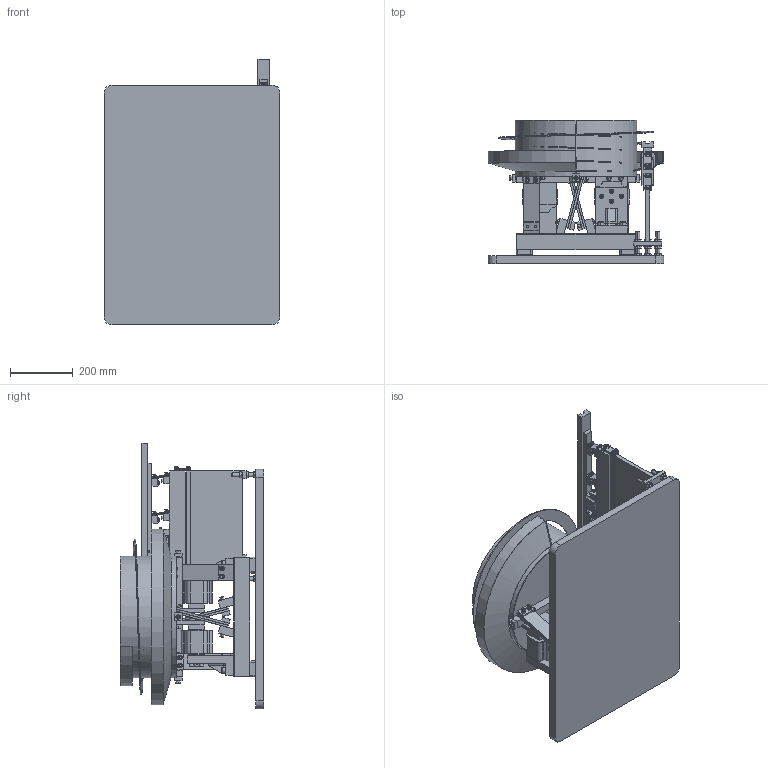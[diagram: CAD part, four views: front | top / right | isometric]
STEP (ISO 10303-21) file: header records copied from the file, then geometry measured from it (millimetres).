
FILE_DESCRIPTION (( 'STEP AP203' ), '1' );
FILE_NAME ('CW15B-18T-P.STEP', '2014-01-10T11:39:44', ( '' ), ( '' ), 'SwSTEP 2.0', 'SolidWorks 2013', '' );
FILE_SCHEMA (( 'CONFIG_CONTROL_DESIGN' ));
Length unit declared in the file: inch
Products named in the file (27): S-II-RISER GUSSET_6.5"; S-II-SPRING-SPACER; S-II-14-DRIVE BAR; MFS-S-II-14 INLINE_6.5; S-II-ADJUSTING-LEVELER; S-II-I-LAMINATION; S-II-FRONT-FOOT; S-II-SPRING-BLOCK; hex washer screw_ai_IN-HWMS 0.25-20x1.25x1-N; socket head cap screw_ai_HX-SHCS 0.19-24x1.625x1.25-N; 15-CW-BASE-DRIVE; socket head cap screw_ai_HX-SHCS 0.19-24x0.625x0.625-N; S-II-REAR-FOOT; S-II-COIL; S-II-I-LAM-MTG-BLOCK; socket head cap screw_ai_HX-SHCS 0.19-24x1.125x1.125-N; BOWL_15"; MFS PLATE_15"; CW15B-18T-P; S-II-14-SUB-BASE; S-II-SPRING-CLAMP; S-II-THICK-SPRING; S-II-14-MASS BAR; hex jam nut_ai_HJNUT 0.5000-13-D-N; MFS TRACK_18"; socket head cap screw_ai_HX-SHCS 0.19-24x0.75x0.75-N; S-II-COIL-BLOCK
Assembly tree (96 placements, depth 3):
  CW15B-18T-P
    BOWL_15"
    MFS PLATE_15"
    MFS TRACK_18"
    15-CW-BASE-DRIVE
    MFS-S-II-14 INLINE_6.5
      S-II-14-SUB-BASE
      S-II-14-MASS BAR
      S-II-14-DRIVE BAR
      S-II-SPRING-SPACER  x14
      S-II-THICK-SPRING  x10
      S-II-SPRING-BLOCK  x6
      S-II-SPRING-CLAMP  x10
      S-II-RISER GUSSET_6.5"
      S-II-COIL
      S-II-COIL-BLOCK
      S-II-I-LAMINATION
      S-II-I-LAM-MTG-BLOCK
      S-II-FRONT-FOOT
      S-II-REAR-FOOT
      S-II-ADJUSTING-LEVELER  x3
      hex jam nut_ai_HJNUT 0.5000-13-D-N  x6
      hex washer screw_ai_IN-HWMS 0.25-20x1.25x1-N  x6
      socket head cap screw_ai_HX-SHCS 0.19-24x0.75x0.75-N  x20
      socket head cap screw_ai_HX-SHCS 0.19-24x1.125x1.125-N  x2
      socket head cap screw_ai_HX-SHCS 0.19-24x1.625x1.25-N  x2
      socket head cap screw_ai_HX-SHCS 0.19-24x0.625x0.625-N  x2
Bounding box: 558.8 x 456.43 x 844.55 mm (x, y, z)
Volume: 14952791.2 mm3; surface area: 3695680.1 mm2
Topology: 94 solids, 204 shells, 2684 faces, 6888 edges, 4371 vertices
Faces by surface type: plane 1429, cylinder 690, cone 498, torus 52, sphere 8, bspline 7
Entity records: 51719 total; most frequent: CARTESIAN_POINT 10782, DIRECTION 7917, ORIENTED_EDGE 6551, EDGE_CURVE 3816, AXIS2_PLACEMENT_3D 2737, VERTEX_POINT 2573, VECTOR 2443, LINE 2443
